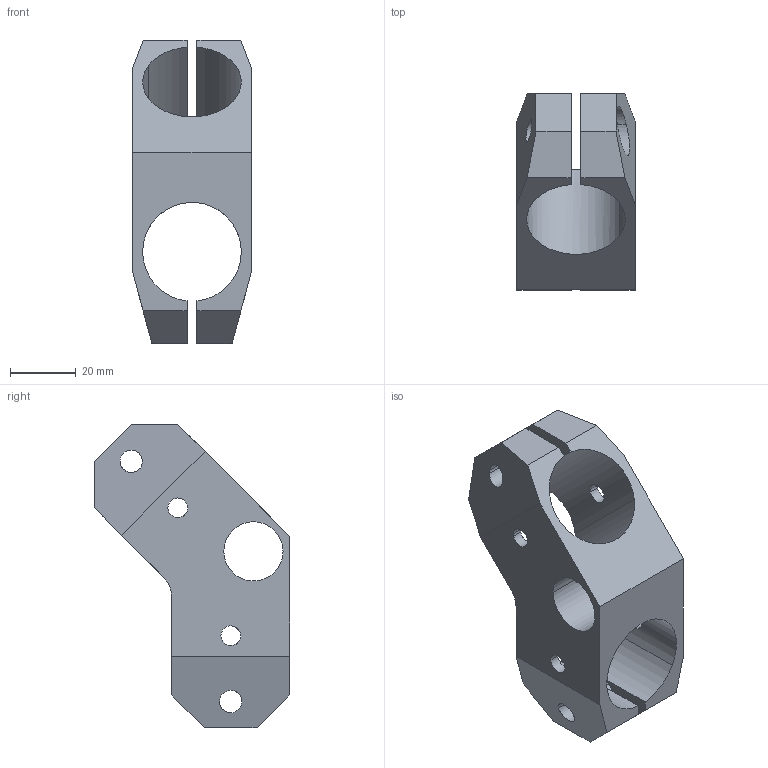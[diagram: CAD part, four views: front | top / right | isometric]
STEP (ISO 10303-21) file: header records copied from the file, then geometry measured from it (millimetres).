
FILE_DESCRIPTION(('STEP AP214'),'1');
FILE_NAME('EGT144_1714399_VERBINDER_D30_D30_FORM_L135_KE.CATPart.stp','2015-09-18T08:05:41',('3D-Tool'),(' '),'Spatial InterOp 3D',' ',' ');
FILE_SCHEMA(('automotive_design'));
Length unit declared in the file: millimetre
Products named in the file (1): EGT144_1714399_VERBINDER_D30_D30_FORM_L135_KE|PartBody|Pocket
Bounding box: 36 x 59.56 x 92.35 mm (x, y, z)
Volume: 51606.8 mm3; surface area: 22444.5 mm2
Topology: 1 solids, 1 shells, 83 faces, 245 edges, 162 vertices
Faces by surface type: cylinder 53, plane 30
Entity records: 4194 total; most frequent: CARTESIAN_POINT 1247, ORIENTED_EDGE 490, DIRECTION 455, EDGE_CURVE 245, AXIS2_PLACEMENT_3D 162, VERTEX_POINT 162, LINE 131, VECTOR 131
